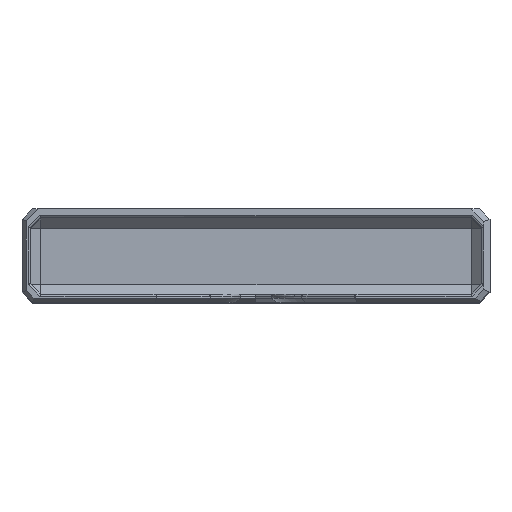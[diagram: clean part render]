
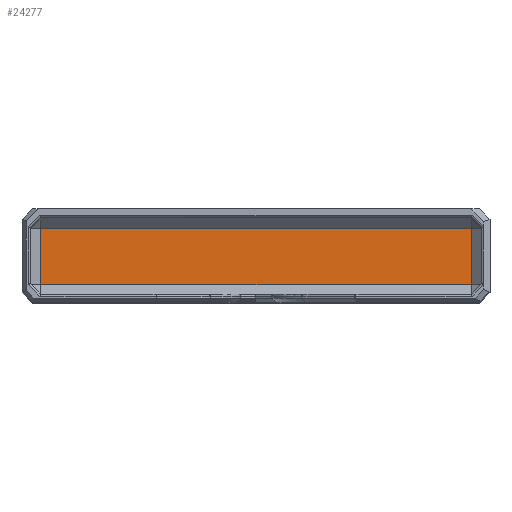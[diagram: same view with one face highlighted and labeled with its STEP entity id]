
A CAD part, top view. The second image highlights one B-rep face of the part: STEP entity #24277.
In plain terms, the highlighted planar face has unit normal (0, 0, 1).
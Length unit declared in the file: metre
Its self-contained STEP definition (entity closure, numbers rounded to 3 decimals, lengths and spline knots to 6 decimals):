
#4083=ORIENTED_EDGE('',*,*,#11585,.T.);
#4084=ORIENTED_EDGE('',*,*,#11586,.T.);
#4085=ORIENTED_EDGE('',*,*,#11587,.T.);
#4086=ORIENTED_EDGE('',*,*,#11588,.T.);
#11585=EDGE_CURVE('',#15332,#15333,#16983,.T.);
#11586=EDGE_CURVE('',#15333,#15334,#16984,.T.);
#11587=EDGE_CURVE('',#15334,#15335,#16985,.T.);
#11588=EDGE_CURVE('',#15335,#15332,#16986,.T.);
#15332=VERTEX_POINT('',#40147);
#15333=VERTEX_POINT('',#40148);
#15334=VERTEX_POINT('',#40150);
#15335=VERTEX_POINT('',#40152);
#16983=LINE('',#40146,#19165);
#16984=LINE('',#40149,#19166);
#16985=LINE('',#40151,#19167);
#16986=LINE('',#40153,#19168);
#19165=VECTOR('',#30959,1.);
#19166=VECTOR('',#30960,1.);
#19167=VECTOR('',#30961,1.);
#19168=VECTOR('',#30962,1.);
#20598=EDGE_LOOP('',(#4083,#4084,#4085,#4086));
#22248=FACE_BOUND('',#20598,.T.);
#23765=PLANE('',#26370);
#24277=ADVANCED_FACE('',(#22248),#23765,.T.);
#26370=AXIS2_PLACEMENT_3D('',#40145,#30957,#30958);
#30957=DIRECTION('',(0.,0.,1.));
#30958=DIRECTION('',(1.,0.,0.));
#30959=DIRECTION('',(0.,1.,0.));
#30960=DIRECTION('',(-1.,0.,0.));
#30961=DIRECTION('',(0.,-1.,0.));
#30962=DIRECTION('',(1.,0.,0.));
#40145=CARTESIAN_POINT('',(0.,0.,0.004));
#40146=CARTESIAN_POINT('',(0.1035,0.0185,0.004));
#40147=CARTESIAN_POINT('',(0.1035,-0.0135,0.004));
#40148=CARTESIAN_POINT('',(0.1035,0.0135,0.004));
#40149=CARTESIAN_POINT('',(-0.1085,0.0135,0.004));
#40150=CARTESIAN_POINT('',(-0.1035,0.0135,0.004));
#40151=CARTESIAN_POINT('',(-0.1035,0.,0.004));
#40152=CARTESIAN_POINT('',(-0.1035,-0.0135,0.004));
#40153=CARTESIAN_POINT('',(0.,-0.0135,0.004));
